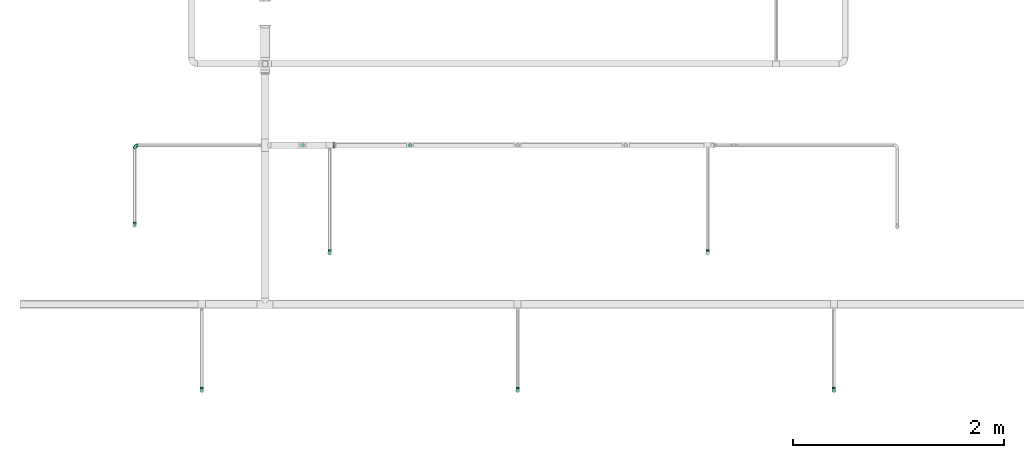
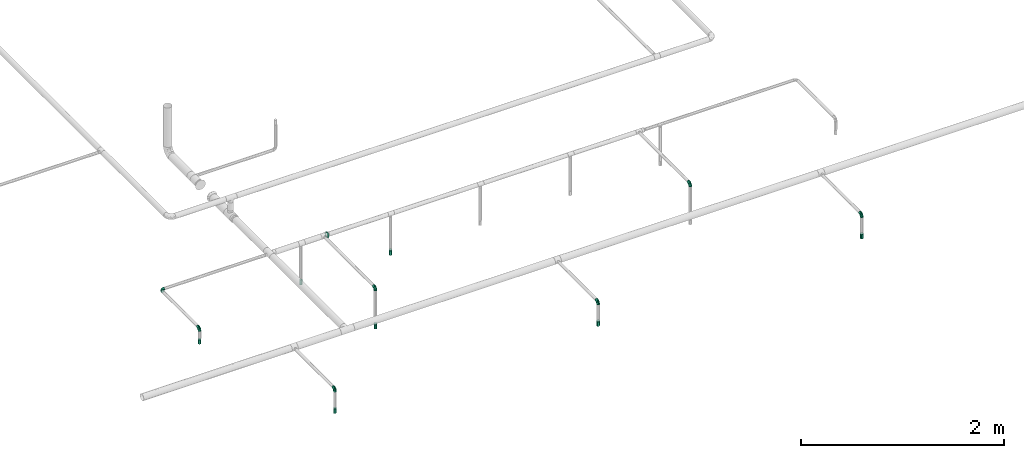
# One storey, part 16 of 45: 12 flow fittings, 7 flow terminals, 1 flow segment.
"""IFC2X3 building model written with IfcOpenShell, lengths in millimetres."""

from ifc_helpers import new_model, entity, si_unit, converted_unit, derived_unit, direction, frame, origin_with_axes, origin_2d_with_axis, place, context, subcontext, project, spatial, hollow_circle, extrude, open_shell, surface_model, source, transform, mapped, type_object, element, save


model = new_model("IFC2X3")

# Units and contexts
model_context = context("Model", 3, precision=0.01, world=frame((0.0, 4.29681676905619e-09, 0.0)), true_north=direction((4.01073788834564e-13, 1.0)))
plan_context = context("Plan", 3, precision=0.01, world=frame((0.0, 4.29681676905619e-09, 0.0)), true_north=direction((4.01073788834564e-13, 1.0)))
body_context = subcontext(model_context, "Body", "Model", "MODEL_VIEW")
ifc_project = project(units=[converted_unit("PLANEANGLEUNIT", "DEGREE", entity("IfcPositiveLengthMeasure", 0.0174532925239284), si_unit("PLANEANGLEUNIT", "RADIAN"), dimensions=[0, 0, 0, 0, 0, 0, 0]), si_unit("AREAUNIT", "SQUARE_METRE"), si_unit("LENGTHUNIT", "METRE", prefix="MILLI"), si_unit("MASSUNIT", "GRAM", prefix="KILO"), si_unit("POWERUNIT", "WATT"), si_unit("PRESSUREUNIT", "PASCAL", prefix="KILO"), si_unit("FORCEUNIT", "NEWTON", prefix="KILO"), si_unit("ELECTRICVOLTAGEUNIT", "VOLT"), si_unit("ELECTRICCURRENTUNIT", "AMPERE"), si_unit("THERMODYNAMICTEMPERATUREUNIT", "DEGREE_CELSIUS"), si_unit("TIMEUNIT", "SECOND"), si_unit("VOLUMEUNIT", "CUBIC_METRE"), derived_unit("LINEARVELOCITYUNIT", [(si_unit("LENGTHUNIT", "METRE"), 1), (si_unit("TIMEUNIT", "SECOND"), -1)]), derived_unit("VOLUMETRICFLOWRATEUNIT", [(si_unit("VOLUMEUNIT", "CUBIC_METRE"), 1), (si_unit("TIMEUNIT", "SECOND"), -1)]), derived_unit("THERMALTRANSMITTANCEUNIT", [(si_unit("POWERUNIT", "WATT"), 1), (si_unit("THERMODYNAMICTEMPERATUREUNIT", "KELVIN"), -1), (si_unit("AREAUNIT", "SQUARE_METRE"), -1)]), derived_unit("SOUNDPRESSUREUNIT", [(si_unit("PRESSUREUNIT", "PASCAL"), 1)])], contexts=[model_context, plan_context])

# Site, building, storey
site_placement = place(None, frame((0.0, -4.29681676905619e-09, 0.0), z_axis=(0.0, 0.0, 1.0), x_axis=(1.0, 0.0, 0.0)))
site = spatial("IfcSite", under=ifc_project, at=site_placement, CompositionType="ELEMENT")
building_placement = place(site_placement, frame((0.0, 4.29681676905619e-09, 0.0), z_axis=(0.0, 0.0, 1.0), x_axis=(1.0, 0.0, 0.0)))
building = spatial("IfcBuilding", under=site, at=building_placement, Name="mc-building", CompositionType="ELEMENT")
storey_placement = place(building_placement, frame((0.0, 0.0, 210200.0), z_axis=(0.0, 0.0, 1.0), x_axis=(1.0, 0.0, 0.0)))
storey = spatial("IfcBuildingStorey", under=building, at=storey_placement, Name="Nivå F - 0,7 m", CompositionType="ELEMENT", Elevation=210200.0)

# Flow fittings
pipe_fitting_type_1 = type_object("IfcPipeFittingType", Name="magi_pipe_fe_elbow_short_001", PredefinedType="BEND")
shared_shape_1 = source(origin_with_axes(), body_context, "Body", "SurfaceModel", [
    surface_model("IfcShellBasedSurfaceModel", [(-33.8, -11.9501, -11.9501), (-33.8, -14.63583, -8.45), (-33.8, -8.45, -14.63583), (-33.8, 0.0, -16.9), (-33.8, -4.37404, -16.32415), (-33.8, -16.32415, -4.37404), (-33.8, -16.9, 0.0), (-33.8, 11.9501, 11.9501), (-33.8, 14.63583, 8.45), (-33.8, 8.45, 14.63583), (-33.8, -11.9501, 11.9501), (-33.8, -8.45, 14.63583), (-33.8, -14.63583, 8.45), (-33.8, -16.32415, 4.37404), (-33.8, -4.37404, 16.32415), (-33.8, 0.0, 16.9), (-33.8, 16.9, 0.0), (-33.8, 16.32415, -4.37404), (-33.8, 16.32415, 4.37404), (-33.8, 4.37404, -16.32415), (-33.8, 8.45, -14.63583), (-33.8, 14.63583, -8.45), (-33.8, 11.9501, -11.9501), (-33.8, 4.37404, 16.32415), (-4.37404, 33.8, -16.32415), (16.9, 33.8, 0.0), (0.0, 33.8, -16.9), (-16.32415, 33.8, -4.37404), (-8.45, 33.8, -14.63583), (-14.63583, 33.8, -8.45), (-11.9501, 33.8, -11.9501), (16.32415, 33.8, 4.37404), (8.45, 33.8, -14.63583), (14.63583, 33.8, -8.45), (11.9501, 33.8, -11.9501), (4.37404, 33.8, -16.32415), (16.32415, 33.8, -4.37404), (-16.32415, 33.8, 4.37404), (-4.37404, 33.8, 16.32415), (-14.63583, 33.8, 8.45), (-8.45, 33.8, 14.63583), (-11.9501, 33.8, 11.9501), (14.63583, 33.8, 8.45), (8.45, 33.8, 14.63583), (11.9501, 33.8, 11.9501), (0.0, 33.8, 16.9), (4.37404, 33.8, 16.32415), (-16.9, 33.8, 0.0), (-24.79389, -13.12945, 9.48721), (-22.19287, -9.75018, 12.59315), (-24.09897, -14.97035, 0.0), (-14.93934, -10.76256, 8.5297), (-22.46095, -14.75051, 5.27077), (14.75051, 22.46094, 5.27077), (11.9251, 13.23888, 4.33236), (13.04069, 14.39795, 0.0), (7.71387, 13.68847, 11.55891), (9.75018, 22.19287, 12.59315), (4.10169, 13.0571, 14.04018), (-24.84007, -6.39063, 15.2048), (-25.81779, -2.23879, 16.61097), (-23.66549, 2.59054, 16.87119), (-26.50418, 14.06512, 11.08152), (-24.21253, 17.66365, 7.72657), (-29.58514, 15.86957, 7.00283), (-6.17382, -7.5455, 0.0), (-13.23888, -11.9251, 4.33236), (-14.39795, -13.04069, 0.0), (-17.81434, 18.87373, 11.97104), (-6.30846, 29.15138, 15.82987), (-2.31622, 25.28002, 16.85849), (-29.23923, 10.23435, 13.77053), (-1.45439, -2.85688, 7.61475), (-0.28326, 0.34872, 10.09509), (-5.74484, -4.04709, 10.4122), (-4.41137, 11.31918, 16.59407), (-8.39727, 3.10034, 15.7812), (-1.72649, 9.1306, 15.53089), (-17.39909, 24.75344, 7.64977), (-26.19233, 20.0512, 0.0), (-28.14518, 17.29657, 4.25857), (-26.05147, 6.6281, 15.96447), (-5.87354, 16.61944, 16.86968), (-12.51807, 12.51807, 16.48937), (-10.06312, 7.38516, 16.81295), (-3.01882, 3.01882, 13.81718), (-13.0571, -4.10169, 14.04018), (-16.82553, -0.15166, 16.38038), (10.76256, 14.93934, 8.5297), (13.12945, 24.79389, 9.48721), (6.39063, 24.84007, 15.2048), (2.23879, 25.81779, 16.61097), (-13.68847, -7.71387, 11.55891), (14.97035, 24.09897, 0.0), (-7.30894, 22.89991, 16.09489), (-10.67958, 26.17414, 14.008), (-12.78295, 18.26924, 15.06066), (-13.88562, 22.45231, 12.93244), (-18.04944, 15.16501, 14.04434), (-23.11658, 20.08178, 4.02986), (-21.84989, 21.84989, 0.0), (-18.55817, 25.48277, 3.93065), (-13.95142, 26.94732, 11.03289), (-18.57098, 7.23906, 16.59756), (-16.58335, 4.14122, 16.89279), (-17.96666, 11.46709, 15.63151), (-9.84453, 17.54304, 16.18938), (0.15166, 16.82553, 16.38038), (-23.27207, 11.47201, 14.23154), (3.84842, 5.86994, 10.70473), (-8.0212, -7.54413, 7.93275), (1.00345, -2.19508, 4.57414), (5.13203, 3.01004, 5.90201), (5.24161, 1.7543, 2.53265), (8.70457, 7.04947, 3.99182), (-20.0512, 26.19233, 0.0), (8.4852, 8.76699, 7.09296), (-4.55488, -6.72064, 4.90681), (2.05031, -2.05031, 0.0), (7.5455, 6.17382, 0.0), (-26.75399, 2.1369, -16.845), (-14.61995, 24.73803, -11.27736), (-28.45274, -13.45335, -9.81895), (-26.00469, 6.63555, -15.96645), (-23.06726, 20.04573, -4.26202), (-13.80647, -4.26506, -14.17873), (-14.67501, -0.21081, -16.07388), (-6.7902, -0.2828, -13.8478), (-24.53586, 11.08096, -14.13417), (-26.72048, 14.00837, -11.05776), (10.0967, 24.44989, -12.75976), (5.83237, 21.40218, -15.03047), (6.66249, 28.54238, -15.38093), (-20.38182, 15.48705, -12.74596), (12.53268, 21.23441, -9.15363), (12.54494, 15.67504, -5.54878), (9.7522, 12.89279, -8.66343), (-15.65186, 19.64213, -13.01327), (-12.03528, 20.66498, -14.67665), (-15.61907, 15.61906, -14.83879), (-25.56551, -15.26206, 0.0), (-24.65452, -15.12934, -5.50955), (13.45335, 28.45274, -9.81895), (15.12934, 24.65452, -5.50955), (-7.35442, -8.31014, -5.65563), (-15.67504, -12.54494, -5.54878), (-24.44989, -10.0967, -12.75976), (0.16522, 0.41303, -9.71728), (-5.70658, -5.33066, -8.89288), (-5.13869, -2.37198, -11.53565), (-21.23441, -12.53268, -9.15363), (0.71146, 7.93863, -14.09382), (0.21081, 14.67501, -16.07388), (3.49291, 14.42772, -14.76381), (-24.89911, -2.13088, -16.591), (-28.54238, -6.66249, -15.38093), (-18.44386, -7.71663, -13.26957), (2.13088, 24.89911, -16.591), (-28.64342, 17.44413, -2.89318), (1.70017, -1.28722, -5.09504), (-16.57067, 26.81947, -7.36596), (-17.69055, 27.4263, -3.76405), (-12.89279, -9.7522, -8.66343), (-5.96611, 5.96611, -15.95814), (-20.53709, 20.09345, -8.28985), (-2.1369, 26.75399, -16.845), (-6.89872, 24.58781, -16.02578), (-10.60739, 26.53157, -13.98044), (-21.40218, -5.83237, -15.03047), (2.93192, 5.89627, -11.55917), (6.89393, 12.61842, -11.82233), (5.58056, 5.95325, -8.79455), (-3.99512, 18.61798, -16.89635), (8.31014, 7.35442, -5.65563), (-9.1383, 9.86148, -16.89041), (-9.99983, 16.02119, -16.39699), (-16.68576, 9.78031, -16.34199), (-27.01915, 16.61158, -7.12979), (15.26206, 25.56551, 0.0), (-18.61798, 3.99512, -16.89635), (-19.37495, 27.82495, 0.0), (-12.61842, -6.89393, -11.82233), (-18.84705, 19.14018, -10.96545)], [open_shell([[[0, 1, 2]], [[3, 4, 2]], [[5, 6, 1]], [[7, 8, 9]], [[10, 11, 12]], [[13, 12, 11]], [[14, 15, 11]], [[16, 17, 18]], [[3, 6, 19]], [[20, 19, 17]], [[20, 17, 21]], [[22, 20, 21]], [[17, 19, 6]], [[2, 1, 6]], [[2, 6, 3]], [[6, 18, 17]], [[23, 18, 6]], [[8, 18, 23]], [[8, 23, 9]], [[13, 23, 6]], [[23, 13, 11]], [[11, 15, 23]], [[24, 25, 26]], [[27, 24, 28]], [[29, 27, 28]], [[29, 28, 30]], [[31, 25, 24]], [[32, 33, 34]], [[32, 35, 26]], [[33, 25, 36]], [[33, 32, 26]], [[25, 33, 26]], [[24, 27, 37]], [[31, 24, 37]], [[38, 37, 39]], [[40, 38, 39]], [[40, 39, 41]], [[31, 37, 38]], [[42, 43, 44]], [[43, 42, 31]], [[43, 45, 46]], [[43, 31, 38]], [[38, 45, 43]], [[37, 27, 47]], [[10, 48, 49]], [[13, 6, 50]], [[51, 48, 52]], [[53, 54, 55]], [[48, 10, 12]], [[13, 52, 12]], [[56, 57, 58]], [[49, 11, 10]], [[49, 59, 11]], [[15, 60, 61]], [[62, 63, 64]], [[65, 66, 67]], [[57, 44, 43]], [[62, 68, 63]], [[38, 69, 70]], [[9, 71, 7]], [[14, 60, 15]], [[72, 73, 74]], [[75, 76, 77]], [[7, 62, 8]], [[39, 37, 78]], [[79, 16, 80]], [[64, 18, 8]], [[15, 61, 23]], [[23, 81, 9]], [[82, 83, 84]], [[74, 85, 86]], [[59, 86, 87]], [[88, 89, 57]], [[90, 43, 46]], [[42, 53, 31]], [[46, 45, 91]], [[54, 53, 88]], [[42, 89, 53]], [[92, 86, 49]], [[89, 42, 44]], [[11, 59, 14]], [[53, 55, 93]], [[93, 31, 53]], [[66, 52, 67]], [[94, 82, 70]], [[95, 96, 94]], [[97, 98, 96]], [[79, 99, 100]], [[40, 41, 95]], [[101, 100, 99]], [[68, 78, 63]], [[38, 40, 69]], [[16, 18, 80]], [[95, 94, 69]], [[78, 101, 99]], [[41, 102, 95]], [[70, 45, 38]], [[97, 95, 102]], [[13, 50, 52]], [[90, 57, 43]], [[57, 90, 58]], [[81, 23, 61]], [[103, 104, 84]], [[105, 81, 103]], [[41, 39, 102]], [[106, 96, 83]], [[94, 106, 82]], [[91, 70, 107]], [[71, 62, 7]], [[62, 108, 98]], [[86, 59, 49]], [[67, 52, 50]], [[60, 59, 87]], [[92, 49, 51]], [[86, 85, 76]], [[91, 90, 46]], [[25, 31, 93]], [[107, 77, 58]], [[107, 58, 90]], [[58, 85, 109]], [[110, 74, 92]], [[72, 74, 110]], [[66, 51, 52]], [[72, 111, 112]], [[113, 114, 112]], [[56, 88, 57]], [[52, 48, 12]], [[49, 48, 51]], [[57, 89, 44]], [[53, 89, 88]], [[103, 81, 61]], [[71, 81, 108]], [[18, 64, 80]], [[63, 78, 99]], [[47, 115, 101]], [[101, 115, 100]], [[39, 78, 102]], [[68, 102, 78]], [[97, 96, 95]], [[105, 98, 108]], [[103, 84, 83]], [[107, 70, 82]], [[76, 84, 87]], [[82, 84, 75]], [[70, 91, 45]], [[90, 91, 107]], [[59, 60, 14]], [[61, 60, 87]], [[73, 85, 74]], [[109, 112, 116]], [[103, 61, 104]], [[105, 103, 83]], [[96, 105, 83]], [[81, 105, 108]], [[96, 98, 105]], [[62, 98, 68]], [[61, 87, 104]], [[87, 84, 104]], [[86, 76, 87]], [[77, 76, 85]], [[58, 77, 85]], [[75, 77, 107]], [[82, 75, 107]], [[76, 75, 84]], [[81, 71, 9]], [[62, 71, 108]], [[95, 69, 40]], [[70, 69, 94]], [[62, 64, 8]], [[80, 63, 99]], [[63, 80, 64]], [[80, 99, 79]], [[66, 65, 117]], [[110, 66, 117]], [[112, 114, 116]], [[118, 117, 65]], [[110, 92, 51]], [[112, 111, 113]], [[119, 55, 54]], [[74, 86, 92]], [[58, 109, 56]], [[116, 56, 109]], [[66, 110, 51]], [[72, 110, 117]], [[111, 72, 117]], [[73, 112, 109]], [[117, 118, 111]], [[113, 111, 118]], [[118, 119, 113]], [[114, 119, 54]], [[119, 114, 113]], [[116, 54, 88]], [[54, 116, 114]], [[116, 88, 56]], [[112, 73, 72]], [[85, 73, 109]], [[78, 37, 101]], [[47, 101, 37]], [[102, 68, 97]], [[97, 68, 98]], [[82, 106, 83]], [[94, 96, 106]], [[19, 120, 3]], [[29, 30, 121]], [[0, 122, 1]], [[20, 123, 19]], [[100, 124, 79]], [[125, 126, 127]], [[128, 22, 129]], [[130, 131, 132]], [[128, 129, 133]], [[134, 135, 136]], [[137, 138, 139]], [[128, 20, 22]], [[67, 140, 141]], [[134, 142, 143]], [[141, 5, 1]], [[144, 65, 145]], [[146, 0, 2]], [[147, 148, 149]], [[145, 141, 150]], [[151, 152, 153]], [[154, 4, 3]], [[2, 155, 146]], [[150, 146, 156]], [[155, 2, 4]], [[143, 135, 134]], [[35, 157, 26]], [[16, 79, 158]], [[148, 159, 144]], [[160, 161, 27]], [[145, 162, 144]], [[163, 152, 151]], [[27, 29, 160]], [[121, 164, 160]], [[32, 34, 130]], [[26, 165, 24]], [[24, 165, 166]], [[142, 34, 33]], [[30, 28, 167]], [[124, 161, 164]], [[157, 35, 132]], [[155, 154, 168]], [[123, 20, 128]], [[169, 170, 171]], [[172, 157, 152]], [[24, 166, 28]], [[132, 35, 32]], [[142, 130, 34]], [[168, 154, 126]], [[136, 135, 173]], [[133, 137, 139]], [[22, 21, 129]], [[170, 131, 130]], [[33, 36, 143]], [[172, 174, 175]], [[176, 123, 128]], [[158, 177, 17]], [[135, 55, 119]], [[167, 28, 166]], [[175, 166, 172]], [[137, 167, 138]], [[122, 141, 1]], [[140, 6, 5]], [[36, 25, 178]], [[170, 130, 134]], [[152, 157, 131]], [[165, 157, 172]], [[153, 170, 151]], [[152, 163, 174]], [[168, 125, 156]], [[122, 146, 150]], [[120, 154, 3]], [[179, 174, 126]], [[179, 126, 154]], [[126, 163, 127]], [[162, 145, 150]], [[140, 5, 141]], [[36, 178, 143]], [[55, 143, 178]], [[177, 129, 21]], [[128, 133, 139]], [[176, 128, 139]], [[120, 123, 179]], [[121, 160, 29]], [[161, 100, 180]], [[166, 175, 138]], [[121, 30, 167]], [[161, 47, 27]], [[79, 124, 158]], [[124, 164, 177]], [[161, 124, 100]], [[136, 171, 170]], [[127, 163, 151]], [[147, 171, 159]], [[148, 144, 162]], [[127, 151, 169]], [[127, 181, 125]], [[129, 177, 164]], [[21, 17, 177]], [[159, 65, 144]], [[67, 141, 145]], [[143, 55, 135]], [[135, 119, 173]], [[123, 120, 19]], [[154, 120, 179]], [[157, 165, 26]], [[166, 165, 172]], [[172, 152, 174]], [[176, 139, 175]], [[126, 174, 163]], [[176, 174, 179]], [[174, 176, 175]], [[123, 176, 179]], [[150, 181, 162]], [[127, 149, 181]], [[181, 148, 162]], [[159, 148, 147]], [[171, 136, 173]], [[170, 134, 136]], [[159, 171, 173]], [[171, 147, 169]], [[169, 147, 149]], [[151, 170, 169]], [[164, 182, 129]], [[182, 121, 137]], [[181, 149, 148]], [[169, 149, 127]], [[182, 137, 133]], [[167, 137, 121]], [[166, 138, 167]], [[175, 139, 138]], [[129, 182, 133]], [[121, 182, 164]], [[161, 160, 164]], [[47, 161, 180]], [[177, 158, 124]], [[16, 158, 17]], [[130, 132, 32]], [[157, 132, 131]], [[143, 142, 33]], [[130, 142, 134]], [[154, 155, 4]], [[146, 155, 168]], [[146, 122, 0]], [[141, 122, 150]], [[152, 131, 153]], [[159, 119, 118]], [[67, 145, 65]], [[170, 153, 131]], [[119, 159, 173]], [[159, 118, 65]], [[156, 125, 181]], [[126, 125, 168]], [[150, 156, 181]], [[168, 156, 146]]])]),
])
for number, where, z_axis, x_axis, name in (
    (1, (328314.5, 460604.5, 2938.0), (-1.0, 0.0, 0.0), (0.0, 0.0, 1.0), "magi_pipe_fe_elbow_short_001"),
    (2, (324731.5, 460604.5, 2938.0), (-1.0, 0.0, 0.0), (0.0, 0.0, 1.0), "magi_pipe_fe_elbow_short_001"),
    (3, (322882.02326, 461628.40208, 2938.0), (0.0, 0.0, 1.0), (-1.0, 0.0, 0.0), "magi_pipe_fe_elbow_short_001"),
    (4, (322882.02326, 460868.40208, 2938.0), (-1.0, 0.0, 0.0), (0.0, 0.0, 1.0), "magi_pipe_fe_elbow_short_001"),
    (5, (323518.2, 459300.0, 2938.0), (-1.0, 0.0, 0.0), (0.0, 0.0, 1.0), "magi_pipe_fe_elbow_short_001"),
    (6, (326513.2, 459300.0, 2938.0), (-1.0, 0.0, 0.0), (0.0, 0.0, 1.0), "magi_pipe_fe_elbow_short_001"),
    (7, (329513.2, 459300.0, 2938.0), (-1.0, 0.0, 0.0), (0.0, 0.0, 1.0), "magi_pipe_fe_elbow_short_001"),
):
    element("IfcFlowFitting", number, at=place(storey_placement, frame(where, z_axis=z_axis, x_axis=x_axis)), inside=storey, type_object=pipe_fitting_type_1, Name=name, context=body_context, shape_type="MappedRepresentation", body=[
        mapped(shared_shape_1, transform((0.0, 0.0, 0.0), scale=1.0)),
    ])
pipe_fitting_type_2 = type_object("IfcPipeFittingType", Name="magi_pipe_fe_reducer_centric_short_001", PredefinedType="TRANSITION")
shared_shape_2 = source(origin_with_axes(), body_context, "Body", "SurfaceModel", [
    surface_model("IfcShellBasedSurfaceModel", [(9.0, 4.37404, -16.32415), (9.0, 8.45, -14.63583), (9.0, 11.9501, -11.9501), (9.0, 0.0, -16.9), (9.0, 16.32415, -4.37404), (9.0, 16.32415, 4.37404), (9.0, 14.63583, -8.45), (9.0, -8.45, -14.63583), (9.0, -4.37404, -16.32415), (9.0, -11.9501, -11.9501), (9.0, -16.32415, -4.37404), (9.0, -14.63583, -8.45), (9.0, -16.32415, 4.37404), (9.0, 16.9, 0.0), (9.0, 14.63583, 8.45), (9.0, 11.9501, 11.9501), (9.0, 4.37404, 16.32415), (9.0, 0.0, 16.9), (9.0, 8.45, 14.63583), (9.0, -14.63583, 8.45), (9.0, -16.9, 0.0), (9.0, -8.45, 14.63583), (9.0, -11.9501, 11.9501), (9.0, -4.37404, 16.32415), (7.0, 4.37404, 16.32415), (7.0, -14.63583, 8.45), (7.0, 0.0, 16.9), (7.0, 16.32415, 4.37404), (7.0, 8.45, 14.63583), (7.0, 11.9501, 11.9501), (7.0, 14.63583, 8.45), (7.0, -8.45, 14.63583), (7.0, -11.9501, 11.9501), (7.0, -4.37404, 16.32415), (7.0, -16.32415, 4.37404), (7.0, -16.32415, -4.37404), (7.0, -16.9, 0.0), (7.0, -8.45, -14.63583), (7.0, 16.32415, -4.37404), (7.0, 11.9501, -11.9501), (7.0, 14.63583, -8.45), (7.0, 8.45, -14.63583), (7.0, 4.37404, -16.32415), (7.0, 0.0, -16.9), (7.0, -11.9501, -11.9501), (7.0, -14.63583, -8.45), (7.0, -4.37404, -16.32415), (7.0, 16.9, 0.0), (-2.0, -9.47523, 9.47523), (-2.0, 0.0, 13.4), (-2.0, 3.46818, 12.94341), (-2.0, 6.7, 11.60474), (-2.0, 9.47523, 9.47523), (-2.0, 11.60474, 6.7), (-2.0, 12.94341, 3.46818), (-2.0, -3.46818, 12.94341), (-2.0, -6.7, 11.60474), (-2.0, -12.94341, 3.46818), (-2.0, -11.60474, 6.7), (-2.0, -6.7, -11.60474), (-2.0, -12.94341, -3.46818), (-2.0, -13.4, 0.0), (-2.0, 12.94341, -3.46818), (-2.0, 6.7, -11.60474), (-2.0, 9.47523, -9.47523), (-2.0, 11.60474, -6.7), (-2.0, 3.46818, -12.94341), (-2.0, 0.0, -13.4), (-2.0, -9.47523, -9.47523), (-2.0, -11.60474, -6.7), (-2.0, -3.46818, -12.94341), (-2.0, 13.4, 0.0), (0.0, 12.94341, -3.46818), (0.0, 3.46818, -12.94341), (0.0, 6.7, -11.60474), (0.0, 11.60474, -6.7), (0.0, 9.47523, -9.47523), (0.0, -6.7, -11.60474), (0.0, -12.94341, 3.46818), (0.0, -3.46818, -12.94341), (0.0, 0.0, -13.4), (0.0, -9.47523, -9.47523), (0.0, -12.94341, -3.46818), (0.0, -11.60474, -6.7), (0.0, 13.4, 0.0), (0.0, 12.94341, 3.46818), (0.0, 11.60474, 6.7), (0.0, 9.47523, 9.47523), (0.0, 0.0, 13.4), (0.0, 6.7, 11.60474), (0.0, 3.46818, 12.94341), (0.0, -9.47523, 9.47523), (0.0, -11.60474, 6.7), (0.0, -13.4, 0.0), (0.0, -3.46818, 12.94341), (0.0, -6.7, 11.60474), (7.0, -14.51228, -5.76448), (0.0, -11.43761, -4.73762), (7.0, -13.23119, -8.85729), (0.0, -10.45642, -7.10642), (0.0, -12.41881, -2.36881), (7.0, -15.70614, -2.88224), (0.0, -2.36881, -12.41881), (7.0, -5.97505, -14.42505), (0.0, -7.10642, -10.45642), (0.0, -4.73762, -11.43761), (7.0, -2.98753, -15.66253), (7.0, -8.96258, -13.18758), (7.0, 2.98753, -15.66253), (0.0, 2.36881, -12.41881), (0.0, 12.45339, -2.28533), (7.0, 13.18758, -8.96258), (0.0, 10.45642, -7.10642), (7.0, 14.42505, -5.97505), (0.0, 11.43761, -4.73762), (0.0, 7.10642, -10.45642), (7.0, 8.96258, -13.18758), (7.0, 15.66253, -2.98753), (0.0, 4.73762, -11.43761), (7.0, 5.97505, -14.42505), (7.0, 14.51228, 5.76448), (0.0, 11.43761, 4.73762), (7.0, 13.23119, 8.85729), (0.0, 10.45642, 7.10642), (0.0, 12.41881, 2.36881), (7.0, 15.70614, 2.88224), (0.0, 2.36881, 12.41881), (7.0, 5.97505, 14.42505), (0.0, 7.10642, 10.45642), (0.0, 4.73762, 11.43761), (7.0, 2.98753, 15.66253), (7.0, 8.96258, 13.18758), (7.0, -2.98753, 15.66253), (0.0, -2.36881, 12.41881), (0.0, -12.45339, 2.28533), (7.0, -13.18758, 8.96258), (0.0, -10.45642, 7.10642), (7.0, -14.42505, 5.97505), (0.0, -11.43761, 4.73762), (0.0, -7.10642, 10.45642), (7.0, -8.96258, 13.18758), (7.0, -15.66253, 2.98753), (0.0, -4.73762, 11.43761), (7.0, -5.97505, 14.42505)], [open_shell([[[0, 1, 2]], [[3, 0, 2]], [[2, 4, 5]], [[4, 2, 6]], [[2, 5, 7]], [[3, 7, 8]], [[3, 2, 7]], [[9, 10, 11]], [[10, 9, 7]], [[7, 12, 10]], [[5, 4, 13]], [[5, 14, 15]], [[5, 15, 16]], [[16, 17, 5]], [[16, 15, 18]], [[5, 17, 19]], [[5, 19, 12]], [[20, 10, 12]], [[19, 21, 22]], [[19, 17, 21]], [[21, 17, 23]], [[12, 7, 5]], [[24, 25, 26]], [[27, 24, 28]], [[29, 30, 27]], [[29, 27, 28]], [[25, 24, 27]], [[31, 25, 32]], [[25, 31, 33]], [[26, 25, 33]], [[27, 34, 25]], [[34, 35, 36]], [[34, 27, 37]], [[27, 38, 39]], [[39, 38, 40]], [[39, 41, 42]], [[37, 27, 39]], [[42, 43, 39]], [[35, 44, 45]], [[44, 35, 37]], [[37, 43, 46]], [[35, 34, 37]], [[39, 43, 37]], [[38, 27, 47]], [[35, 10, 36]], [[45, 11, 35]], [[7, 44, 37]], [[45, 44, 9]], [[8, 37, 46]], [[35, 11, 10]], [[10, 20, 36]], [[8, 7, 37]], [[9, 44, 7]], [[9, 11, 45]], [[3, 8, 46]], [[46, 43, 3]], [[42, 0, 43]], [[41, 1, 42]], [[6, 39, 40]], [[41, 39, 2]], [[4, 40, 38]], [[41, 2, 1]], [[1, 0, 42]], [[13, 4, 38]], [[6, 40, 4]], [[6, 2, 39]], [[47, 13, 38]], [[43, 0, 3]], [[27, 5, 47]], [[30, 14, 27]], [[18, 29, 28]], [[30, 29, 15]], [[16, 28, 24]], [[27, 14, 5]], [[5, 13, 47]], [[16, 18, 28]], [[15, 29, 18]], [[15, 14, 30]], [[17, 16, 24]], [[24, 26, 17]], [[33, 23, 26]], [[31, 21, 33]], [[19, 32, 25]], [[31, 32, 22]], [[12, 25, 34]], [[31, 22, 21]], [[21, 23, 33]], [[20, 12, 34]], [[19, 25, 12]], [[19, 22, 32]], [[36, 20, 34]], [[26, 23, 17]], [[48, 49, 50]], [[51, 48, 50]], [[52, 53, 54]], [[52, 54, 51]], [[48, 51, 54]], [[55, 48, 56]], [[55, 49, 48]], [[48, 57, 58]], [[48, 59, 57]], [[57, 60, 61]], [[62, 48, 54]], [[48, 62, 63]], [[64, 62, 65]], [[66, 48, 63]], [[63, 62, 64]], [[66, 67, 48]], [[60, 68, 69]], [[60, 57, 68]], [[70, 59, 48]], [[57, 59, 68]], [[70, 48, 67]], [[71, 62, 54]], [[72, 73, 74]], [[75, 74, 76]], [[77, 73, 78]], [[72, 74, 75]], [[73, 72, 78]], [[73, 79, 80]], [[73, 77, 79]], [[81, 82, 83]], [[78, 82, 81]], [[81, 77, 78]], [[72, 84, 78]], [[85, 86, 87]], [[85, 87, 88]], [[89, 90, 88]], [[89, 88, 87]], [[85, 88, 91]], [[78, 91, 92]], [[93, 82, 78]], [[91, 94, 95]], [[91, 78, 85]], [[94, 91, 88]], [[78, 84, 85]], [[60, 82, 61]], [[69, 83, 60]], [[77, 68, 59]], [[69, 68, 81]], [[79, 59, 70]], [[60, 83, 82]], [[82, 93, 61]], [[79, 77, 59]], [[81, 68, 77]], [[81, 83, 69]], [[80, 79, 70]], [[70, 67, 80]], [[66, 73, 67]], [[63, 74, 66]], [[75, 64, 65]], [[63, 64, 76]], [[72, 65, 62]], [[63, 76, 74]], [[74, 73, 66]], [[84, 72, 62]], [[75, 65, 72]], [[75, 76, 64]], [[71, 84, 62]], [[67, 73, 80]], [[54, 85, 71]], [[53, 86, 54]], [[89, 52, 51]], [[53, 52, 87]], [[90, 51, 50]], [[54, 86, 85]], [[85, 84, 71]], [[90, 89, 51]], [[87, 52, 89]], [[87, 86, 53]], [[88, 90, 50]], [[50, 49, 88]], [[55, 94, 49]], [[56, 95, 55]], [[92, 48, 58]], [[56, 48, 91]], [[78, 58, 57]], [[56, 91, 95]], [[95, 94, 55]], [[93, 78, 57]], [[92, 58, 78]], [[92, 91, 48]], [[61, 93, 57]], [[49, 94, 88]], [[36, 29, 26]], [[39, 47, 29]], [[26, 32, 36]], [[36, 44, 43]], [[43, 39, 36]], [[36, 39, 29]], [[81, 91, 88]], [[81, 93, 91]], [[88, 87, 84]], [[84, 76, 81]], [[80, 81, 76]], [[84, 81, 88]], [[96, 97, 98]], [[81, 44, 99]], [[100, 96, 101]], [[102, 80, 43]], [[103, 104, 105]], [[102, 43, 106]], [[107, 81, 104]], [[108, 80, 109]], [[110, 84, 47]], [[93, 101, 36]], [[108, 43, 80]], [[111, 76, 112]], [[113, 112, 114]], [[115, 39, 116]], [[110, 47, 117]], [[99, 98, 97]], [[117, 113, 114]], [[106, 103, 105]], [[118, 116, 119]], [[109, 118, 119]], [[96, 100, 97]], [[93, 100, 101]], [[99, 44, 98]], [[104, 103, 107]], [[107, 44, 81]], [[106, 105, 102]], [[112, 113, 111]], [[111, 39, 76]], [[117, 114, 110]], [[116, 118, 115]], [[115, 76, 39]], [[109, 119, 108]], [[120, 121, 122]], [[87, 29, 123]], [[124, 120, 125]], [[126, 88, 26]], [[127, 128, 129]], [[126, 26, 130]], [[131, 87, 128]], [[132, 88, 133]], [[134, 93, 36]], [[84, 125, 47]], [[132, 26, 88]], [[135, 91, 136]], [[137, 136, 138]], [[139, 32, 140]], [[134, 36, 141]], [[123, 122, 121]], [[141, 137, 138]], [[130, 127, 129]], [[142, 140, 143]], [[133, 142, 143]], [[120, 124, 121]], [[84, 124, 125]], [[123, 29, 122]], [[128, 127, 131]], [[131, 29, 87]], [[130, 129, 126]], [[136, 137, 135]], [[135, 32, 91]], [[141, 138, 134]], [[140, 142, 139]], [[139, 91, 32]], [[133, 143, 132]]])]),
])
for number, where, z_axis, x_axis, name in (
    (8, (325494.5, 461628.40208, 2496.95199999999), (0.0, 1.0, 0.0), (0.0, 0.0, 1.0), "magi_pipe_fe_reducer_centric_short_001"),
    (9, (324731.5, 460604.5, 2496.95199999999), (0.0, -1.0, 0.0), (0.0, 0.0, 1.0), "magi_pipe_fe_reducer_centric_short_001"),
    (10, (323518.2, 459300.0, 2696.95199999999), (0.0, 1.0, 0.0), (0.0, 0.0, 1.0), "magi_pipe_fe_reducer_centric_short_001"),
    (11, (326513.2, 459300.0, 2696.95199999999), (0.0, 1.0, 0.0), (0.0, 0.0, 1.0), "magi_pipe_fe_reducer_centric_short_001"),
    (12, (329513.2, 459300.0, 2696.95199999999), (0.0, 1.0, 0.0), (0.0, 0.0, 1.0), "magi_pipe_fe_reducer_centric_short_001"),
):
    element("IfcFlowFitting", number, at=place(storey_placement, frame(where, z_axis=z_axis, x_axis=x_axis)), inside=storey, type_object=pipe_fitting_type_2, Name=name, context=body_context, shape_type="MappedRepresentation", body=[
        mapped(shared_shape_2, transform((0.0, 0.0, 0.0), scale=1.0)),
    ])

# Flow segment
pipe_segment_type = type_object("IfcPipeSegmentType", Name="Stålrør normaltykke", PredefinedType="RIGIDSEGMENT")
shared_shape_3 = source(origin_with_axes(), body_context, "Body", "SweptSolid", [
    extrude(hollow_circle(Radius=30.1, WallThickness=2.0, at=origin_2d_with_axis()), frame((0.0, 0.0, 0.0), z_axis=(1.0, 0.0, 0.0), x_axis=(0.0, 1.0, 0.0)), (0.0, 0.0, 1.0), 8.9),
])
flow_segment_placement = place(storey_placement, frame((324765.3, 461628.40208, 2938.0), z_axis=(0.0, 0.0, 1.0), x_axis=(1.0, 0.0, 0.0)))
element("IfcFlowSegment", 13, at=flow_segment_placement, inside=storey, type_object=pipe_segment_type, Name="Stålrør normaltykke", context=body_context, shape_type="MappedRepresentation", body=[
    mapped(shared_shape_3, transform((0.0, 0.0, 0.0), scale=1.0)),
])

# Flow terminals
fire_suppression_terminal_type = type_object("IfcFireSuppressionTerminalType", Name="SP-15-K80-68DGR-STD-HIMLING", PredefinedType="NOTDEFINED")
shared_shape_4 = source(origin_with_axes(), body_context, "Body", "SurfaceModel", [
    surface_model("IfcShellBasedSurfaceModel", [(4.1411, -15.45481, 53.0), (8.0, -13.85641, 53.0), (11.31371, -11.31371, 53.0), (-8.0, -13.85641, 53.0), (15.45481, -4.1411, 53.0), (16.0, 0.0, 53.0), (13.85641, -8.0, 53.0), (0.0, -16.0, 53.0), (-4.1411, -15.45481, 53.0), (-13.85641, -8.0, 53.0), (-11.31371, -11.31371, 53.0), (-15.45481, -4.1411, 53.0), (15.45481, 4.1411, 53.0), (13.85641, 8.0, 53.0), (11.31371, 11.31371, 53.0), (-4.1411, 15.45481, 53.0), (8.0, 13.85641, 53.0), (4.1411, 15.45481, 53.0), (0.0, 16.0, 53.0), (-13.85641, 8.0, 53.0), (-15.45481, 4.1411, 53.0), (-16.0, 0.0, 53.0), (-11.31371, 11.31371, 53.0), (-8.0, 13.85641, 53.0), (0.0, 16.0, 0.0), (4.1411, 15.45481, 0.0), (8.0, 13.85641, 0.0), (-4.1411, 15.45481, 0.0), (11.31371, 11.31371, 0.0), (13.85641, 8.0, 0.0), (15.45481, 4.1411, 0.0), (-15.45481, -4.1411, 0.0), (-11.31371, 11.31371, 0.0), (-8.0, 13.85641, 0.0), (-13.85641, 8.0, 0.0), (-15.45481, 4.1411, 0.0), (-16.0, 0.0, 0.0), (4.1411, -15.45481, 0.0), (16.0, 0.0, 0.0), (15.45481, -4.1411, 0.0), (13.85641, -8.0, 0.0), (11.31371, -11.31371, 0.0), (8.0, -13.85641, 0.0), (-8.0, -13.85641, 0.0), (-13.85641, -8.0, 0.0), (-11.31371, -11.31371, 0.0), (0.0, -16.0, 0.0), (-4.1411, -15.45481, 0.0)], [open_shell([[[0, 1, 2]], [[3, 0, 2]], [[4, 5, 2]], [[4, 2, 6]], [[3, 2, 5]], [[7, 3, 8]], [[7, 0, 3]], [[3, 9, 10]], [[9, 3, 11]], [[5, 11, 3]], [[5, 12, 11]], [[12, 13, 14]], [[15, 12, 14]], [[16, 17, 18]], [[14, 16, 15]], [[18, 15, 16]], [[11, 19, 20]], [[21, 11, 20]], [[22, 15, 23]], [[15, 22, 19]], [[19, 11, 15]], [[11, 12, 15]], [[24, 25, 26]], [[27, 24, 26]], [[28, 29, 30]], [[27, 26, 28]], [[27, 28, 31]], [[27, 32, 33]], [[32, 27, 34]], [[34, 31, 35]], [[31, 34, 27]], [[35, 31, 36]], [[28, 30, 31]], [[37, 38, 39]], [[37, 39, 40]], [[41, 42, 37]], [[41, 37, 40]], [[38, 37, 43]], [[44, 43, 45]], [[43, 44, 31]], [[43, 46, 47]], [[43, 31, 38]], [[37, 46, 43]], [[38, 31, 30]], [[11, 31, 44]], [[45, 9, 44]], [[3, 43, 47]], [[45, 43, 10]], [[8, 47, 46]], [[31, 21, 36]], [[31, 11, 21]], [[44, 9, 11]], [[45, 10, 9]], [[3, 10, 43]], [[47, 8, 3]], [[46, 7, 8]], [[0, 37, 42]], [[41, 1, 42]], [[6, 40, 39]], [[41, 40, 2]], [[4, 39, 38]], [[37, 0, 7]], [[42, 1, 0]], [[41, 2, 1]], [[40, 6, 2]], [[4, 6, 39]], [[38, 5, 4]], [[37, 7, 46]], [[12, 38, 30]], [[13, 30, 29]], [[16, 26, 25]], [[17, 25, 24]], [[30, 13, 12]], [[12, 5, 38]], [[28, 14, 13]], [[28, 26, 14]], [[14, 26, 16]], [[25, 17, 16]], [[28, 13, 29]], [[24, 18, 17]], [[15, 27, 33]], [[32, 23, 33]], [[19, 34, 35]], [[32, 34, 22]], [[20, 35, 36]], [[27, 15, 18]], [[33, 23, 15]], [[32, 22, 23]], [[34, 19, 22]], [[20, 19, 35]], [[36, 21, 20]], [[27, 18, 24]]])]),
])
for number, where, z_axis, x_axis in (
    (14, (325494.5, 461628.40208, 2500.0), (0.0, 0.0, -1.0), (-1.0, 0.0, 0.0)),
    (15, (324474.5, 461628.40208, 2500.0), (0.0, 0.0, -1.0), (-1.0, 0.0, 0.0)),
    (16, (324731.5, 460604.5, 2500.0), (0.0, 0.0, -1.0), (-1.0, 0.0, 0.0)),
    (17, (322882.02326, 460868.40208, 2805.0), (0.0, 0.0, -1.0), (-1.0, 0.0, 0.0)),
    (18, (323518.2, 459300.0, 2700.0), (0.0, 0.0, -1.0), (-1.0, 0.0, 0.0)),
    (19, (326513.2, 459300.0, 2700.0), (0.0, 0.0, -1.0), (-1.0, 0.0, 0.0)),
    (20, (329513.2, 459300.0, 2700.0), (0.0, 0.0, -1.0), (-1.0, 0.0, 0.0)),
):
    element("IfcFlowTerminal", number, at=place(storey_placement, frame(where, z_axis=z_axis, x_axis=x_axis)), inside=storey, type_object=fire_suppression_terminal_type, Name="SP-15-K80-68DGR-STD-HIMLING", context=body_context, shape_type="MappedRepresentation", body=[
        mapped(shared_shape_4, transform((0.0, 0.0, 0.0), scale=1.0)),
    ])

save(model, "model.ifc")
